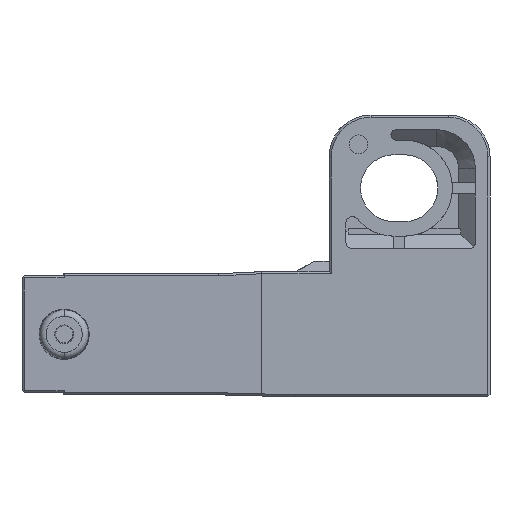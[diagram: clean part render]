
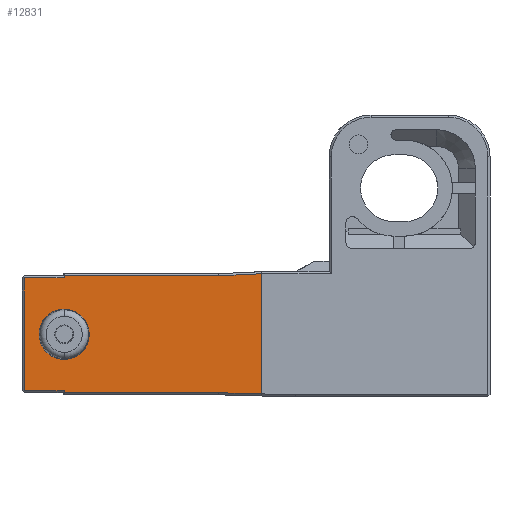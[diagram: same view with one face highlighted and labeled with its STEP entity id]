
A CAD part, left-side view. The second image highlights one B-rep face of the part: STEP entity #12831.
In plain terms, the highlighted planar face has unit normal (-1, 0.016, 0).
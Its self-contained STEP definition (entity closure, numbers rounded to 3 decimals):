
#229 = CARTESIAN_POINT ( 'NONE',  ( -6.577, 18., 1.2 ) ) ;
#515 = CARTESIAN_POINT ( 'NONE',  ( -6.493, 22.8, 1.2 ) ) ;
#880 = CARTESIAN_POINT ( 'NONE',  ( -6.502, 22.298, 2.7 ) ) ;
#1183 = FACE_BOUND ( 'NONE', #8293, .T. ) ;
#1380 = ORIENTED_EDGE ( 'NONE', *, *, #15929, .T. ) ;
#1424 = CARTESIAN_POINT ( 'NONE',  ( -6.535, 20.4, -1.2 ) ) ;
#1747 = LINE ( 'NONE', #22334, #22301 ) ;
#2037 = AXIS2_PLACEMENT_3D ( 'NONE', #10060, #18704, #21767 ) ;
#2064 = EDGE_CURVE ( 'NONE', #8752, #10721, #4189, .T. ) ;
#2225 = ORIENTED_EDGE ( 'NONE', *, *, #21207, .T. ) ;
#2353 = EDGE_CURVE ( 'NONE', #17171, #19741, #14410, .T. ) ;
#2925 = LINE ( 'NONE', #4504, #9114 ) ;
#2987 = LINE ( 'NONE', #9923, #9112 ) ;
#3087 = EDGE_CURVE ( 'NONE', #16056, #8850, #18541, .T. ) ;
#3605 = CARTESIAN_POINT ( 'NONE',  ( -6.664, 12.998, 2.8 ) ) ;
#3647 = ORIENTED_EDGE ( 'NONE', *, *, #8068, .T. ) ;
#3677 = EDGE_LOOP ( 'NONE', ( #8925, #2225, #1380, #9343, #3647, #15229, #17214, #21747, #15437, #18442 ) ) ;
#4101 = LINE ( 'NONE', #14919, #8507 ) ;
#4189 = LINE ( 'NONE', #9072, #21993 ) ;
#4428 = DIRECTION ( 'NONE',  ( -0.017, -1., 0. ) ) ;
#4458 = VECTOR ( 'NONE', #19261, 1000. ) ;
#4504 = CARTESIAN_POINT ( 'NONE',  ( -6.5, 22.4, 2.7 ) ) ;
#5115 = CARTESIAN_POINT ( 'NONE',  ( -6.577, 18., -1.2 ) ) ;
#5590 = LINE ( 'NONE', #12442, #4458 ) ;
#6460 = EDGE_CURVE ( 'NONE', #13234, #19038, #4101, .T. ) ;
#7143 = DIRECTION ( 'NONE',  ( 0., 0., -1. ) ) ;
#7157 = CARTESIAN_POINT ( 'NONE',  ( -6.535, 20.4, 1.2 ) ) ;
#7179 = CARTESIAN_POINT ( 'NONE',  ( -6.502, 22.298, -2.7 ) ) ;
#7629 = CARTESIAN_POINT ( 'NONE',  ( -6.5, 22.4, -2.8 ) ) ;
#7654 = CARTESIAN_POINT ( 'NONE',  ( -6.7, 10.942, 2.9 ) ) ;
#8068 = EDGE_CURVE ( 'NONE', #19038, #21765, #2987, .T. ) ;
#8095 = FACE_OUTER_BOUND ( 'NONE', #3677, .T. ) ;
#8269 = DIRECTION ( 'NONE',  ( 0., 0., -1. ) ) ;
#8293 = EDGE_LOOP ( 'NONE', ( #14728, #12081 ) ) ;
#8507 = VECTOR ( 'NONE', #4428, 1000. ) ;
#8752 = VERTEX_POINT ( 'NONE', #9400 ) ;
#8850 = VERTEX_POINT ( 'NONE', #10889 ) ;
#8925 = ORIENTED_EDGE ( 'NONE', *, *, #21144, .T. ) ;
#9072 = CARTESIAN_POINT ( 'NONE',  ( -6.7, 10.942, -3. ) ) ;
#9112 = VECTOR ( 'NONE', #7143, 1000. ) ;
#9114 = VECTOR ( 'NONE', #13426, 1000. ) ;
#9294 = DIRECTION ( 'NONE',  ( 0., 0., -1. ) ) ;
#9343 = ORIENTED_EDGE ( 'NONE', *, *, #6460, .T. ) ;
#9382 = CARTESIAN_POINT ( 'NONE',  ( -6.535, 20.4, -1.2 ) ) ;
#9400 = CARTESIAN_POINT ( 'NONE',  ( -6.7, 10.942, -2.856 ) ) ;
#9455 = CARTESIAN_POINT ( 'NONE',  ( -6.535, 20.4, 2.7 ) ) ;
#9487 = CARTESIAN_POINT ( 'NONE',  ( -6.535, 20.4, 1.2 ) ) ;
#9923 = CARTESIAN_POINT ( 'NONE',  ( -6.535, 20.4, -2.8 ) ) ;
#10060 = CARTESIAN_POINT ( 'NONE',  ( -6.5, 22.4, 2.9 ) ) ;
#10199 = CARTESIAN_POINT ( 'NONE',  ( -6.664, 12.997, -2.8 ) ) ;
#10721 = VERTEX_POINT ( 'NONE', #7654 ) ;
#10785 = LINE ( 'NONE', #21135, #21843 ) ;
#10889 = CARTESIAN_POINT ( 'NONE',  ( -6.535, 20.4, 2.8 ) ) ;
#11949 =( BOUNDED_CURVE ( )  B_SPLINE_CURVE ( 3, ( #20715, #5115, #229, #7157 ),
 .UNSPECIFIED., .F., .F. ) 
 B_SPLINE_CURVE_WITH_KNOTS ( ( 4, 4 ),
 ( 4.712, 7.854 ),
 .UNSPECIFIED. ) 
 CURVE ( )  GEOMETRIC_REPRESENTATION_ITEM ( )  RATIONAL_B_SPLINE_CURVE ( ( 1., 0.333, 0.333, 1. ) ) 
 REPRESENTATION_ITEM ( '' )  );
#12038 = CARTESIAN_POINT ( 'NONE',  ( -6.502, 22.298, -2.8 ) ) ;
#12081 = ORIENTED_EDGE ( 'NONE', *, *, #20461, .F. ) ;
#12442 = CARTESIAN_POINT ( 'NONE',  ( -6.7, 10.939, -2.856 ) ) ;
#12552 = VERTEX_POINT ( 'NONE', #10199 ) ;
#12831 = ADVANCED_FACE ( 'NONE', ( #1183, #8095 ), #15068, .T. ) ;
#13234 = VERTEX_POINT ( 'NONE', #7179 ) ;
#13237 = EDGE_CURVE ( 'NONE', #21765, #12552, #21178, .T. ) ;
#13426 = DIRECTION ( 'NONE',  ( 0.017, 1., 0. ) ) ;
#13436 = VECTOR ( 'NONE', #13777, 1000. ) ;
#13759 = LINE ( 'NONE', #12038, #16195 ) ;
#13777 = DIRECTION ( 'NONE',  ( 0.017, 1., 0. ) ) ;
#14081 = CARTESIAN_POINT ( 'NONE',  ( -6.535, 20.4, -2.8 ) ) ;
#14410 =( BOUNDED_CURVE ( )  B_SPLINE_CURVE ( 3, ( #9487, #515, #14848, #9382 ),
 .UNSPECIFIED., .F., .F. ) 
 B_SPLINE_CURVE_WITH_KNOTS ( ( 4, 4 ),
 ( 1.571, 4.712 ),
 .UNSPECIFIED. ) 
 CURVE ( )  GEOMETRIC_REPRESENTATION_ITEM ( )  RATIONAL_B_SPLINE_CURVE ( ( 1., 0.333, 0.333, 1. ) ) 
 REPRESENTATION_ITEM ( '' )  );
#14433 = EDGE_CURVE ( 'NONE', #10721, #16056, #1747, .T. ) ;
#14591 = DIRECTION ( 'NONE',  ( -0.017, -1., 0. ) ) ;
#14693 = CARTESIAN_POINT ( 'NONE',  ( -6.535, 20.4, 1.2 ) ) ;
#14728 = ORIENTED_EDGE ( 'NONE', *, *, #2353, .F. ) ;
#14775 = DIRECTION ( 'NONE',  ( 0., 0., 1. ) ) ;
#14848 = CARTESIAN_POINT ( 'NONE',  ( -6.493, 22.8, -1.2 ) ) ;
#14919 = CARTESIAN_POINT ( 'NONE',  ( -6.5, 22.4, -2.7 ) ) ;
#15068 = PLANE ( 'NONE',  #2037 ) ;
#15229 = ORIENTED_EDGE ( 'NONE', *, *, #13237, .T. ) ;
#15437 = ORIENTED_EDGE ( 'NONE', *, *, #14433, .T. ) ;
#15891 = VERTEX_POINT ( 'NONE', #880 ) ;
#15929 = EDGE_CURVE ( 'NONE', #15891, #13234, #13759, .T. ) ;
#16056 = VERTEX_POINT ( 'NONE', #3605 ) ;
#16195 = VECTOR ( 'NONE', #8269, 1000. ) ;
#16254 = VECTOR ( 'NONE', #14591, 1000. ) ;
#17066 = CARTESIAN_POINT ( 'NONE',  ( -6.5, 22.4, 2.8 ) ) ;
#17171 = VERTEX_POINT ( 'NONE', #14693 ) ;
#17214 = ORIENTED_EDGE ( 'NONE', *, *, #19881, .T. ) ;
#18089 = CARTESIAN_POINT ( 'NONE',  ( -6.535, 20.4, -2.7 ) ) ;
#18442 = ORIENTED_EDGE ( 'NONE', *, *, #3087, .T. ) ;
#18541 = LINE ( 'NONE', #17066, #13436 ) ;
#18655 = VERTEX_POINT ( 'NONE', #9455 ) ;
#18704 = DIRECTION ( 'NONE',  ( -1., 0.017, 0. ) ) ;
#19038 = VERTEX_POINT ( 'NONE', #18089 ) ;
#19261 = DIRECTION ( 'NONE',  ( -0.017, -0.999, -0.027 ) ) ;
#19262 = DIRECTION ( 'NONE',  ( 0.017, 0.999, -0.049 ) ) ;
#19741 = VERTEX_POINT ( 'NONE', #1424 ) ;
#19881 = EDGE_CURVE ( 'NONE', #12552, #8752, #5590, .T. ) ;
#20461 = EDGE_CURVE ( 'NONE', #19741, #17171, #11949, .T. ) ;
#20715 = CARTESIAN_POINT ( 'NONE',  ( -6.535, 20.4, -1.2 ) ) ;
#21135 = CARTESIAN_POINT ( 'NONE',  ( -6.535, 20.4, 2.8 ) ) ;
#21144 = EDGE_CURVE ( 'NONE', #8850, #18655, #10785, .T. ) ;
#21178 = LINE ( 'NONE', #7629, #16254 ) ;
#21207 = EDGE_CURVE ( 'NONE', #18655, #15891, #2925, .T. ) ;
#21747 = ORIENTED_EDGE ( 'NONE', *, *, #2064, .T. ) ;
#21765 = VERTEX_POINT ( 'NONE', #14081 ) ;
#21767 = DIRECTION ( 'NONE',  ( -0.017, -1., 0. ) ) ;
#21843 = VECTOR ( 'NONE', #9294, 1000. ) ;
#21993 = VECTOR ( 'NONE', #14775, 1000. ) ;
#22301 = VECTOR ( 'NONE', #19262, 1000. ) ;
#22334 = CARTESIAN_POINT ( 'NONE',  ( -6.664, 12.995, 2.8 ) ) ;
